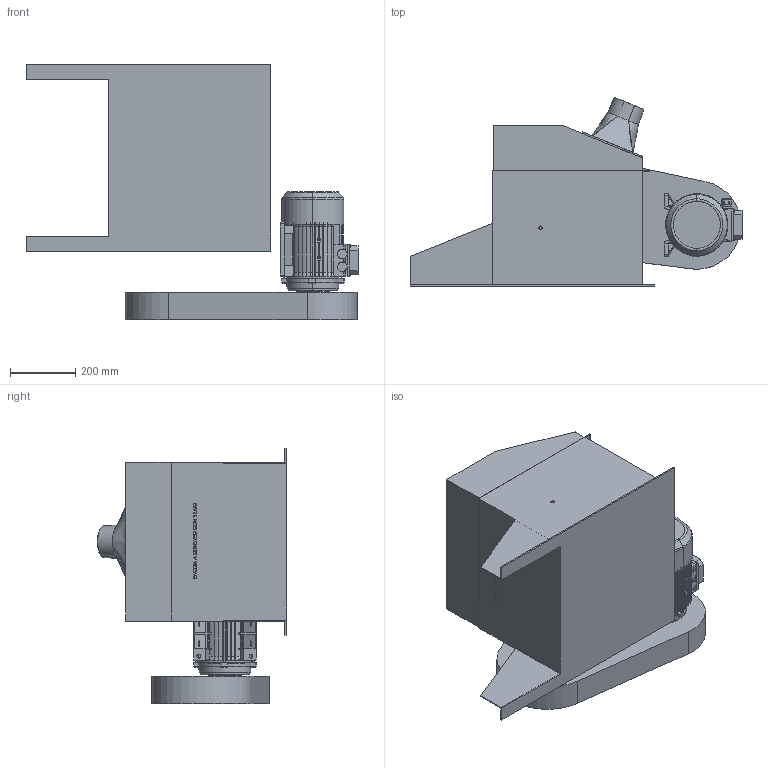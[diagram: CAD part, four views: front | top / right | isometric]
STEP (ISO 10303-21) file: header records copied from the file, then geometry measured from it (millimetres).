
FILE_DESCRIPTION (( 'STEP AP203' ), '1' );
FILE_NAME ('30767.step', '2019-03-14T14:32:56', ( 'PC' ), ( 'Hewlett-Packard Company' ), 'SwSTEP 2.0', 'SolidWorks 2016', '' );
FILE_SCHEMA (( 'CONFIG_CONTROL_DESIGN' ));
Products named in the file (1): 30767
Bounding box: 1017.5 x 579.44 x 782 mm (x, y, z)
Volume: 129156380 mm3; surface area: 3456374.8 mm2
Topology: 8 solids, 9 shells, 963 faces, 2502 edges, 1613 vertices
Faces by surface type: plane 655, cylinder 113, cone 103, bspline 86, torus 6
Entity records: 40133 total; most frequent: CARTESIAN_POINT 17125, ORIENTED_EDGE 5000, DIRECTION 4316, EDGE_CURVE 2500, VECTOR 1676, LINE 1676, VERTEX_POINT 1613, AXIS2_PLACEMENT_3D 1320
